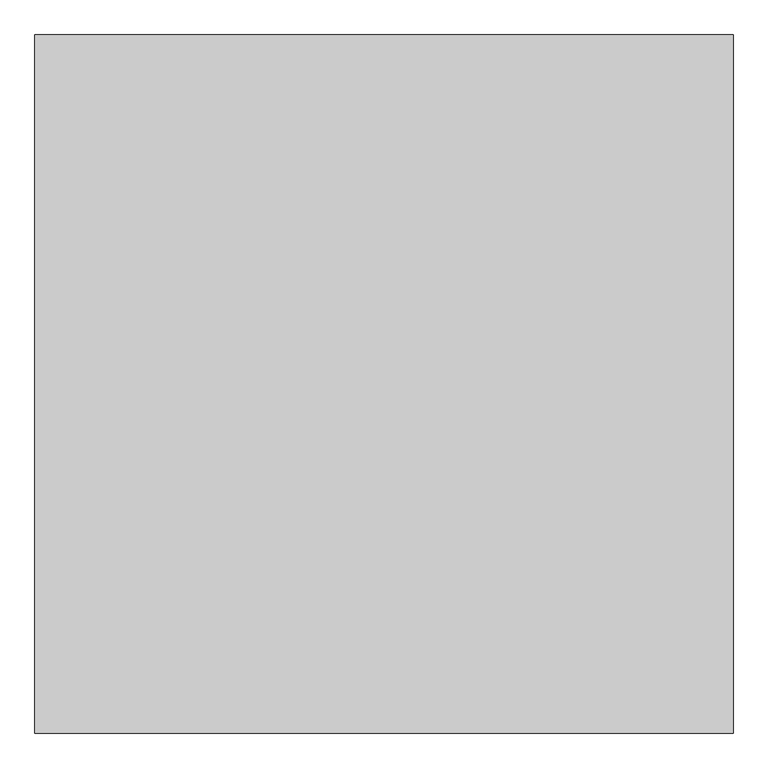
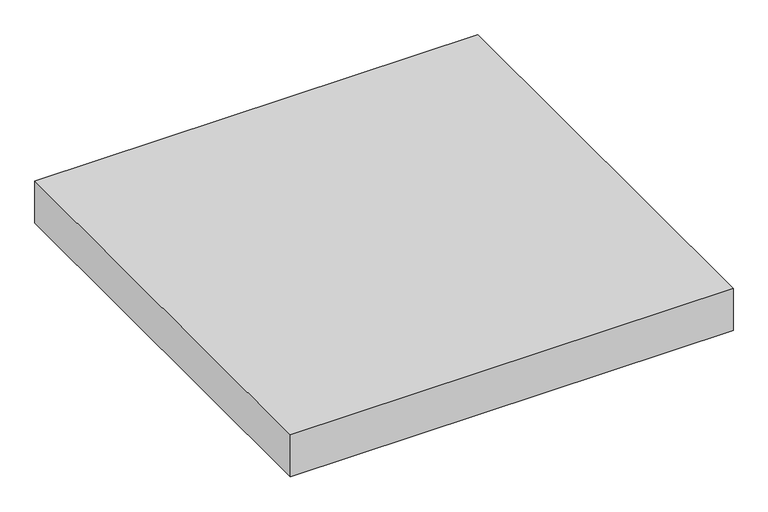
"""IFC4 building model written with IfcOpenShell, lengths in millimetres: proxy geometry, martela - material button : martela - material button."""

from ifc_helpers import new_model, si_unit, origin, origin_with_axes, place, context, project, spatial, polyline, outline, extrude, source, transform, mapped, element, save


def generic_models_875eb390(model_context):
    return source(origin(), model_context, "Body", "SweptSolid", [
        extrude(outline(polyline([(1000.0, 0.0), (0.0, 0.0), (0.0, 1000.0), (1000.0, 1000.0), (1000.0, 0.0)])), origin_with_axes(), (0.0, 0.0, 1.0), 100.0),
    ])


if __name__ == "__main__":
    model = new_model("IFC4")
    model_context = context("Model", 3, world=origin())
    ifc_project = project(units=[si_unit("LENGTHUNIT", "METRE", prefix="MILLI")], contexts=[model_context])
    site = spatial("IfcSite", under=ifc_project)
    building = spatial("IfcBuilding", under=site)
    placement = place(None, origin())
    generic_models_shape = generic_models_875eb390(model_context)
    element("IfcBuildingElementProxy", 1, Name="martela - material button : martela - material button", ObjectType="martela - material button : martela - material button", at=placement, inside=building, context=model_context, shape_type="MappedRepresentation", body=[
        mapped(generic_models_shape, transform((0.0, 0.0, 0.0), x_axis=(1.0, 0.0, 0.0), y_axis=(0.0, 1.0, 0.0), z_axis=(0.0, 0.0, 1.0))),
    ])
    save(model, "model.ifc")
